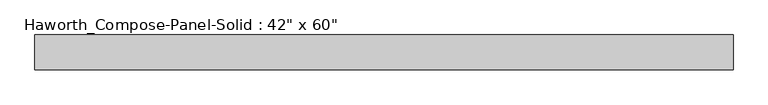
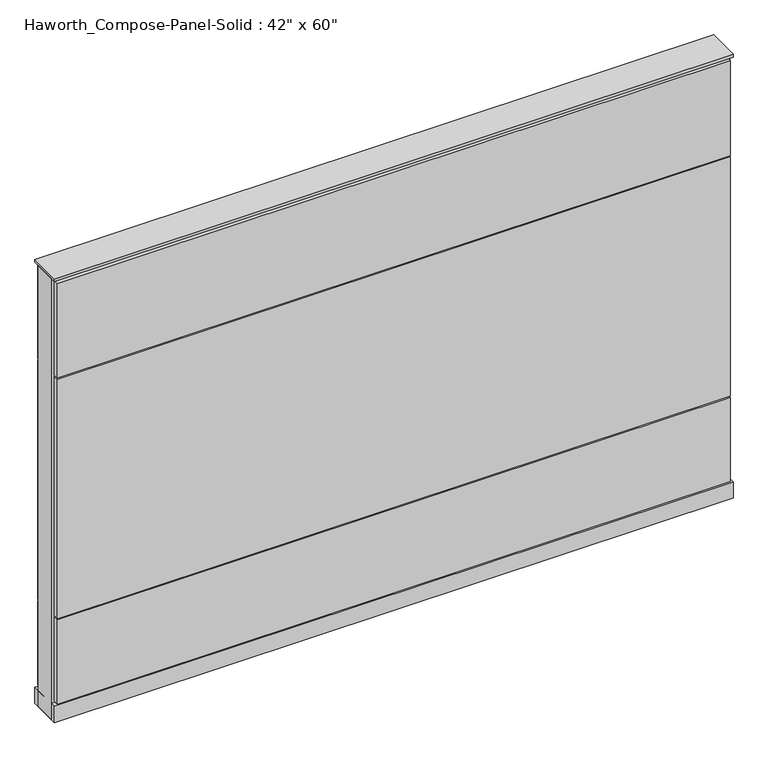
"""IFC4 building model written with IfcOpenShell, lengths in millimetres: furniture geometry."""

from ifc_helpers import new_model, si_unit, point, frame, frame_2d, origin, origin_with_axes, place, context, project, spatial, polyline, circle_curve, trimmed, segment, composite_curve, outline, extrude, source, transform, mapped, element, save


def furniture_aa9343ba(model_context):
    return source(origin(), model_context, "Body", "SweptSolid", [
        extrude(outline(composite_curve([segment(trimmed(circle_curve(frame_2d((-683.3597098, 0.0)), 12.7), [point((-696.0597098, 0.0))], [point((-670.6597098, 0.0))], False, "CARTESIAN"), True, "CONTINUOUS"), segment(trimmed(circle_curve(frame_2d((-683.3597098, 0.0)), 12.7), [point((-670.6597098, 0.0))], [point((-696.0597098, 0.0))], False, "CARTESIAN"), True, "CONTINUOUS")], self_intersect=False)), origin_with_axes(), (0.0, 0.0, 1.0), 12.7),
        extrude(outline(composite_curve([segment(trimmed(circle_curve(frame_2d((688.2402902, 0.0)), 12.7), [point((675.5402902, 0.0))], [point((700.9402902, 0.0))], False, "CARTESIAN"), True, "CONTINUOUS"), segment(trimmed(circle_curve(frame_2d((688.2402902, 0.0)), 12.7), [point((700.9402902, 0.0))], [point((675.5402902, 0.0))], False, "CARTESIAN"), True, "CONTINUOUS")], self_intersect=False)), origin_with_axes(), (0.0, 0.0, 1.0), 12.7),
        extrude(outline(polyline([(758.0902902, 38.1), (758.0902902, 25.4), (-753.2097098, 25.4), (-753.2097098, 38.1), (758.0902902, 38.1)])), frame((0.0, 0.0, 828.675), z_axis=(0.0, 0.0, 1.0), x_axis=(1.0, 0.0, 0.0)), (0.0, 0.0, 1.0), 225.425),
        extrude(outline(polyline([(758.0902902, 38.1), (758.0902902, 25.4), (-753.2097098, 25.4), (-753.2097098, 38.1), (758.0902902, 38.1)])), frame((0.0, 0.0, 257.175), z_axis=(0.0, 0.0, 1.0), x_axis=(1.0, 0.0, 0.0)), (0.0, 0.0, 1.0), 568.325),
        extrude(outline(polyline([(758.0902902, 38.1), (758.0902902, 25.4), (-753.2097098, 25.4), (-753.2097098, 38.1), (758.0902902, 38.1)])), frame((0.0, 0.0, 53.975), z_axis=(0.0, 0.0, 1.0), x_axis=(1.0, 0.0, 0.0)), (0.0, 0.0, 1.0), 200.025),
        extrude(outline(polyline([(758.0902902, -38.1), (-753.2097098, -38.1), (-753.2097098, -25.4), (758.0902902, -25.4), (758.0902902, -38.1)])), frame((0.0, 0.0, 828.675), z_axis=(0.0, 0.0, 1.0), x_axis=(1.0, 0.0, 0.0)), (0.0, 0.0, 1.0), 225.425),
        extrude(outline(polyline([(758.0902902, -38.1), (-753.2097098, -38.1), (-753.2097098, -25.4), (758.0902902, -25.4), (758.0902902, -38.1)])), frame((0.0, 0.0, 257.175), z_axis=(0.0, 0.0, 1.0), x_axis=(1.0, 0.0, 0.0)), (0.0, 0.0, 1.0), 568.325),
        extrude(outline(polyline([(758.0902902, -38.1), (-753.2097098, -38.1), (-753.2097098, -25.4), (758.0902902, -25.4), (758.0902902, -38.1)])), frame((0.0, 0.0, 53.975), z_axis=(0.0, 0.0, 1.0), x_axis=(1.0, 0.0, 0.0)), (0.0, 0.0, 1.0), 200.025),
        extrude(outline(polyline([(764.4402902, 25.4), (764.4402902, -25.4), (-759.5597098, -25.4), (-759.5597098, 25.4), (764.4402902, 25.4)])), frame((0.0, 0.0, 12.7), z_axis=(0.0, 0.0, 1.0), x_axis=(1.0, 0.0, 0.0)), (0.0, 0.0, 1.0), 1047.75),
        extrude(outline(polyline([(-759.5597098, -38.1), (-759.5597098, 38.1), (764.4402902, 38.1), (764.4402902, -38.1), (-759.5597098, -38.1)])), frame((0.0, 0.0, 12.7), z_axis=(0.0, 0.0, 1.0), x_axis=(1.0, 0.0, 0.0)), (0.0, 0.0, 1.0), 38.1),
        extrude(outline(polyline([(-759.5597098, -38.1), (-759.5597098, 38.1), (764.4402902, 38.1), (764.4402902, -38.1), (-759.5597098, -38.1)])), frame((0.0, 0.0, 1060.45), z_axis=(0.0, 0.0, 1.0), x_axis=(1.0, 0.0, 0.0)), (0.0, 0.0, 1.0), 6.35),
    ])


if __name__ == "__main__":
    model = new_model("IFC4")
    model_context = context("Model", 3, world=origin())
    ifc_project = project(units=[si_unit("LENGTHUNIT", "METRE", prefix="MILLI")], contexts=[model_context])
    site = spatial("IfcSite", under=ifc_project)
    building = spatial("IfcBuilding", under=site)
    placement = place(None, origin())
    furniture_shape = furniture_aa9343ba(model_context)
    element("IfcFurniture", 1, ObjectType="Haworth_Compose-Panel-Solid : 42\" x 60\"", at=placement, inside=building, context=model_context, shape_type="MappedRepresentation", body=[
        mapped(furniture_shape, transform((0.0, 0.0, 0.0), x_axis=(1.0, 0.0, 0.0), y_axis=(0.0, 1.0, 0.0), z_axis=(0.0, 0.0, 1.0))),
    ])
    save(model, "model.ifc")
